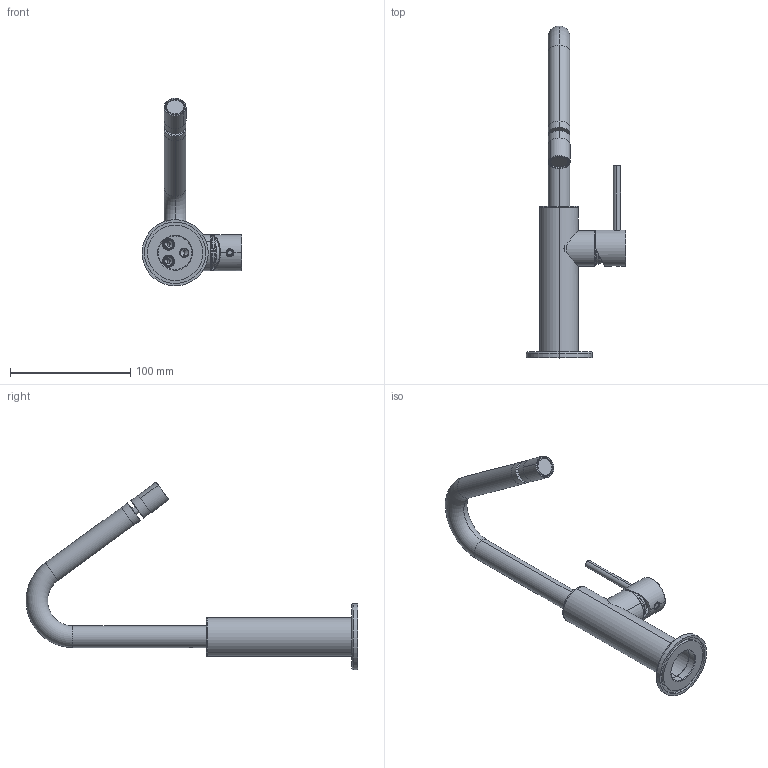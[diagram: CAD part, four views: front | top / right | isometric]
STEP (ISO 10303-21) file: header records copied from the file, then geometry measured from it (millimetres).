
FILE_DESCRIPTION (( 'STEP AP203' ), '1' );
FILE_NAME ('MME18.STEP', '2025-02-07T07:51:20', ( '' ), ( '' ), 'SwSTEP 2.0', 'SolidWorks 2024', '' );
FILE_SCHEMA (( 'CONFIG_CONTROL_DESIGN' ));
Length unit declared in the file: millimetre
Products named in the file (22): C24.2075.00.0; C12.00.0004; MME18; C24.0061.00.1; C19.11.0029.43; C23.0824.01; C24.0372.00.1; C24.0120.00.1; C13.00.0066.01; C47.00.0023.01; C11.14.0014; C21.0648.00.1; C24.0699.00.0; C10.00.0013; C11.14.0019; C24.0029.00.1; C24.0119.00.2; C24.0370.00.3; C47.00.0039.01; C21.0649.00.0; C12.00.0051; C47.00.0049.08
Assembly tree (23 placements, depth 3):
  MME18
    C11.14.0014
    C13.00.0066.01
    C47.00.0049.08
    C24.0061.00.1
    C19.11.0029.43
      C24.0370.00.3
      C24.2075.00.0
    C24.0029.00.1
    C24.0372.00.1
    C24.0119.00.2
    C24.0120.00.1
    C10.00.0013
    C23.0824.01
    C24.0699.00.0
    C21.0648.00.1
    C21.0649.00.0  x2
    C12.00.0051  x2
    C47.00.0023.01
    C11.14.0019
    C12.00.0004
    C47.00.0039.01
Bounding box: 83.01 x 275.89 x 156.02 mm (x, y, z)
Volume: 101190.6 mm3; surface area: 97141.9 mm2
Topology: 22 solids, 32 shells, 1132 faces, 3058 edges, 1972 vertices
Faces by surface type: cylinder 432, plane 334, cone 202, bspline 86, torus 78
Entity records: 42020 total; most frequent: CARTESIAN_POINT 13152, DIRECTION 5446, ORIENTED_EDGE 5436, EDGE_CURVE 2948, AXIS2_PLACEMENT_3D 2161, VERTEX_POINT 1924, EDGE_LOOP 1208, LINE 1124
